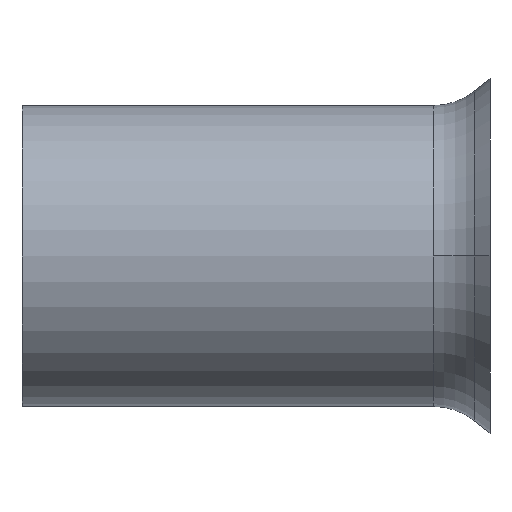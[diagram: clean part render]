
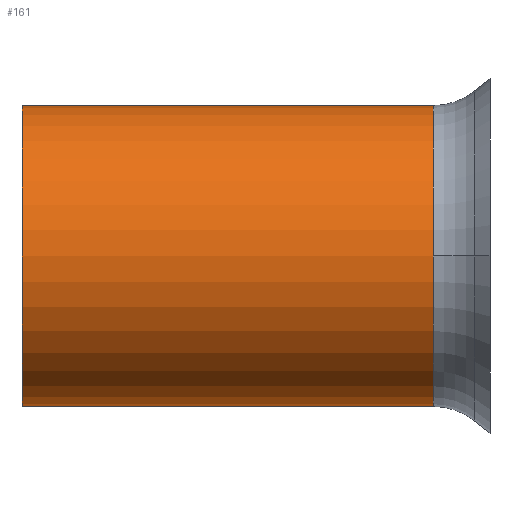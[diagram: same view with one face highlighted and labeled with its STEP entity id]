
A CAD part, left-side view. The second image highlights one B-rep face of the part: STEP entity #161.
In plain terms, the highlighted cylindrical face has radius 2.25 mm (diameter 4.5 mm), a partial arc.
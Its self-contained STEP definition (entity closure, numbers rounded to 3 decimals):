
#14 = CARTESIAN_POINT ( 'NONE',  ( 0., 0., 0. ) ) ;
#15 = DIRECTION ( 'NONE',  ( 0., -1., 0. ) ) ;
#16 = DIRECTION ( 'NONE',  ( 0., 0., -1. ) ) ;
#60 = CARTESIAN_POINT ( 'NONE',  ( 0., 0., 2.25 ) ) ;
#61 = DIRECTION ( 'NONE',  ( 0., -1., 0. ) ) ;
#75 = CARTESIAN_POINT ( 'NONE',  ( 0., 0., -2.25 ) ) ;
#76 = DIRECTION ( 'NONE',  ( 0., -1., 0. ) ) ;
#79 = CARTESIAN_POINT ( 'NONE',  ( 0., 6.5, 0. ) ) ;
#80 = DIRECTION ( 'NONE',  ( 0., -1., 0. ) ) ;
#81 = DIRECTION ( 'NONE',  ( 0., 0., -1. ) ) ;
#90 = CARTESIAN_POINT ( 'NONE',  ( 0., 0.351, 0. ) ) ;
#91 = DIRECTION ( 'NONE',  ( 0., 1., 0. ) ) ;
#92 = DIRECTION ( 'NONE',  ( 1., 0., 0. ) ) ;
#101 = CARTESIAN_POINT ( 'NONE',  ( 0., 0.351, 0. ) ) ;
#102 = DIRECTION ( 'NONE',  ( 0., 1., 0. ) ) ;
#103 = DIRECTION ( 'NONE',  ( 1., 0., 0. ) ) ;
#121 = CARTESIAN_POINT ( 'NONE',  ( 0., 0.351, -2.25 ) ) ;
#123 = CARTESIAN_POINT ( 'NONE',  ( 0., 6.5, -2.25 ) ) ;
#125 = CARTESIAN_POINT ( 'NONE',  ( 0., 6.5, 2.25 ) ) ;
#128 = CARTESIAN_POINT ( 'NONE',  ( 0., 0.351, 2.25 ) ) ;
#134 = CARTESIAN_POINT ( 'NONE',  ( -2.25, 0.351, 0. ) ) ;
#161 = ADVANCED_FACE ( 'NONE', ( #338 ), #339, .T. ) ;
#176 = EDGE_CURVE ( 'NONE', #302, #403, #360, .T. ) ;
#182 = EDGE_CURVE ( 'NONE', #300, #298, #369, .T. ) ;
#184 = EDGE_CURVE ( 'NONE', #302, #300, #375, .T. ) ;
#188 = EDGE_CURVE ( 'NONE', #411, #403, #379, .T. ) ;
#192 = EDGE_CURVE ( 'NONE', #298, #411, #384, .T. ) ;
#202 = AXIS2_PLACEMENT_3D ( 'NONE', #14, #15, #16 ) ;
#219 = AXIS2_PLACEMENT_3D ( 'NONE', #79, #80, #81 ) ;
#222 = AXIS2_PLACEMENT_3D ( 'NONE', #90, #91, #92 ) ;
#225 = AXIS2_PLACEMENT_3D ( 'NONE', #101, #102, #103 ) ;
#241 = ORIENTED_EDGE ( 'NONE', *, *, #176, .F. ) ;
#245 = ORIENTED_EDGE ( 'NONE', *, *, #184, .T. ) ;
#269 = ORIENTED_EDGE ( 'NONE', *, *, #192, .T. ) ;
#272 = ORIENTED_EDGE ( 'NONE', *, *, #188, .T. ) ;
#288 = ORIENTED_EDGE ( 'NONE', *, *, #182, .T. ) ;
#298 = VERTEX_POINT ( 'NONE', #121 ) ;
#300 = VERTEX_POINT ( 'NONE', #123 ) ;
#302 = VERTEX_POINT ( 'NONE', #125 ) ;
#309 = EDGE_LOOP ( 'NONE', ( #241, #245, #288, #269, #272 ) ) ;
#338 = FACE_OUTER_BOUND ( 'NONE', #309, .T. ) ;
#339 = CYLINDRICAL_SURFACE ( 'NONE', #202, 2.25 ) ;
#360 = LINE ( 'NONE', #60, #362 ) ;
#362 = VECTOR ( 'NONE', #61, 1000. ) ;
#369 = LINE ( 'NONE', #75, #371 ) ;
#371 = VECTOR ( 'NONE', #76, 1000. ) ;
#375 = CIRCLE ( 'NONE', #219, 2.25 ) ;
#379 = CIRCLE ( 'NONE', #222, 2.25 ) ;
#384 = CIRCLE ( 'NONE', #225, 2.25 ) ;
#403 = VERTEX_POINT ( 'NONE', #128 ) ;
#411 = VERTEX_POINT ( 'NONE', #134 ) ;
